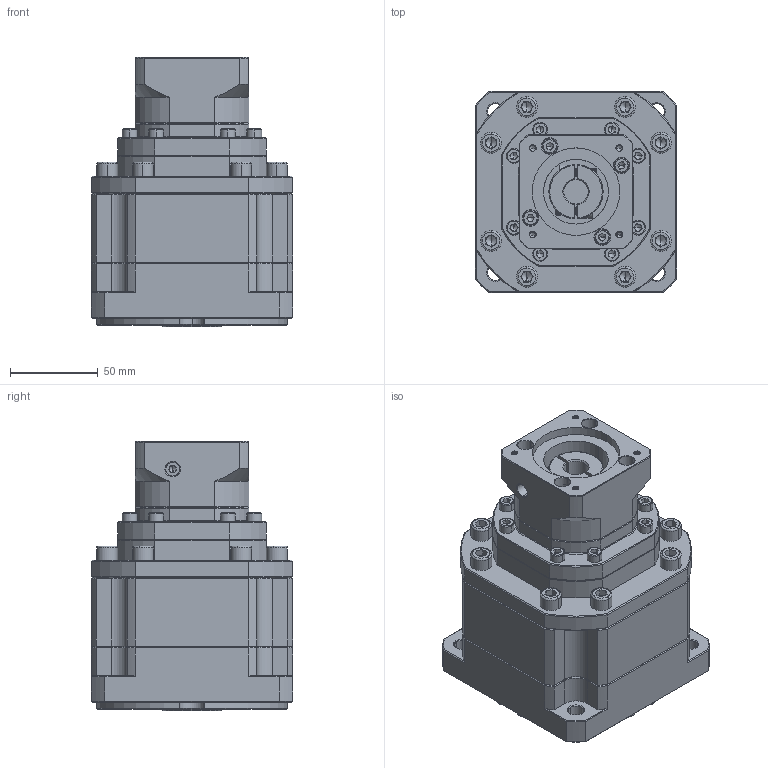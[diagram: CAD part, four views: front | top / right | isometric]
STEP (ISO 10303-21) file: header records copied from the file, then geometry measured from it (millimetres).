
FILE_DESCRIPTION (( 'STEP AP214' ), '1' );
FILE_NAME ('ZB115A-K25-L3-14-50-70-M4.step', '2023-03-03T09:58:41', ( '' ), ( 'Microsoft' ), 'SwSTEP 2.0', 'SolidWorks 2016', '' );
FILE_SCHEMA (( 'AUTOMOTIVE_DESIGN' ));
Length unit declared in the file: millimetre
Products named in the file (1): ZB115A-K25-L3-14-50-70-M4
Bounding box: 115 x 115 x 154 mm (x, y, z)
Volume: 1250445.4 mm3; surface area: 119634.2 mm2
Topology: 7 solids, 7 shells, 2214 faces, 5749 edges, 3644 vertices
Faces by surface type: plane 1119, cylinder 401, cone 336, bspline 336, torus 22
Entity records: 108768 total; most frequent: CARTESIAN_POINT 32862, ORIENTED_EDGE 11378, DIRECTION 9564, EDGE_CURVE 5689, VERTEX_POINT 3644, VECTOR 3580, LINE 3580, AXIS2_PLACEMENT_3D 2992
